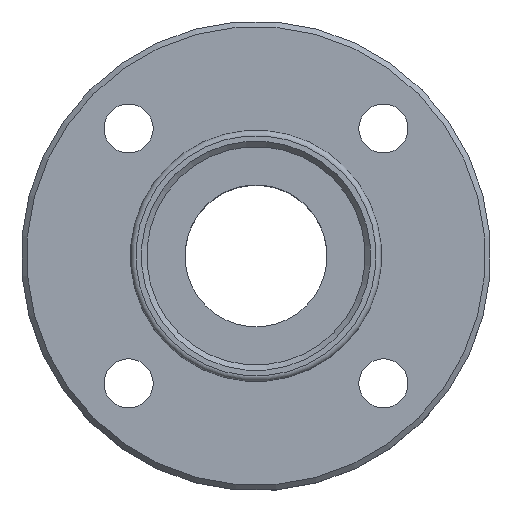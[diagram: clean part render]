
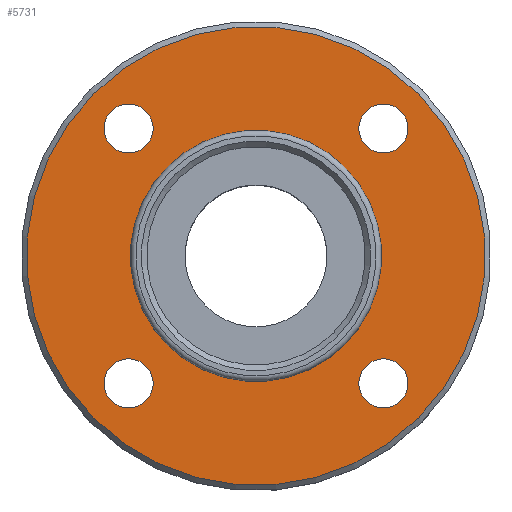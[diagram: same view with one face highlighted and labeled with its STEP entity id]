
A CAD part, top view. The second image highlights one B-rep face of the part: STEP entity #5731.
In plain terms, the highlighted planar face has unit normal (0, 0, 1).
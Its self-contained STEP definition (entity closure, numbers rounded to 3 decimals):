
#128=CIRCLE('',#6103,11.5);
#137=CIRCLE('',#6117,21.);
#138=CIRCLE('',#6118,2.25);
#139=CIRCLE('',#6119,2.25);
#140=CIRCLE('',#6120,2.25);
#141=CIRCLE('',#6121,2.25);
#545=ORIENTED_EDGE('',*,*,#2188,.T.);
#546=ORIENTED_EDGE('',*,*,#2189,.F.);
#547=ORIENTED_EDGE('',*,*,#2190,.F.);
#548=ORIENTED_EDGE('',*,*,#2191,.F.);
#549=ORIENTED_EDGE('',*,*,#2192,.F.);
#550=ORIENTED_EDGE('',*,*,#2179,.T.);
#2179=EDGE_CURVE('',#3001,#3001,#128,.F.);
#2188=EDGE_CURVE('',#3010,#3010,#137,.T.);
#2189=EDGE_CURVE('',#3011,#3011,#138,.T.);
#2190=EDGE_CURVE('',#3012,#3012,#139,.T.);
#2191=EDGE_CURVE('',#3013,#3013,#140,.T.);
#2192=EDGE_CURVE('',#3014,#3014,#141,.T.);
#3001=VERTEX_POINT('',#9116);
#3010=VERTEX_POINT('',#9139);
#3011=VERTEX_POINT('',#9141);
#3012=VERTEX_POINT('',#9143);
#3013=VERTEX_POINT('',#9145);
#3014=VERTEX_POINT('',#9147);
#4679=EDGE_LOOP('',(#545));
#4680=EDGE_LOOP('',(#546));
#4681=EDGE_LOOP('',(#547));
#4682=EDGE_LOOP('',(#548));
#4683=EDGE_LOOP('',(#549));
#4684=EDGE_LOOP('',(#550));
#5105=FACE_BOUND('',#4679,.T.);
#5106=FACE_BOUND('',#4680,.T.);
#5107=FACE_BOUND('',#4681,.T.);
#5108=FACE_BOUND('',#4682,.T.);
#5109=FACE_BOUND('',#4683,.T.);
#5110=FACE_BOUND('',#4684,.T.);
#5470=PLANE('',#6116);
#5731=ADVANCED_FACE('',(#5105,#5106,#5107,#5108,#5109,#5110),#5470,.T.);
#6103=AXIS2_PLACEMENT_3D('',#9115,#6647,#6648);
#6116=AXIS2_PLACEMENT_3D('',#9137,#6673,#6674);
#6117=AXIS2_PLACEMENT_3D('',#9138,#6675,#6676);
#6118=AXIS2_PLACEMENT_3D('',#9140,#6677,#6678);
#6119=AXIS2_PLACEMENT_3D('',#9142,#6679,#6680);
#6120=AXIS2_PLACEMENT_3D('',#9144,#6681,#6682);
#6121=AXIS2_PLACEMENT_3D('',#9146,#6683,#6684);
#6647=DIRECTION('',(0.,0.,1.));
#6648=DIRECTION('',(0.707,-0.707,0.));
#6673=DIRECTION('',(0.,0.,1.));
#6674=DIRECTION('',(0.707,-0.707,0.));
#6675=DIRECTION('',(0.,0.,1.));
#6676=DIRECTION('',(0.707,-0.707,0.));
#6677=DIRECTION('',(0.,0.,1.));
#6678=DIRECTION('',(0.707,-0.707,0.));
#6679=DIRECTION('',(0.,0.,1.));
#6680=DIRECTION('',(0.707,-0.707,0.));
#6681=DIRECTION('',(0.,0.,1.));
#6682=DIRECTION('',(0.707,-0.707,0.));
#6683=DIRECTION('',(0.,0.,1.));
#6684=DIRECTION('',(0.707,-0.707,0.));
#9115=CARTESIAN_POINT('',(0.,0.,0.));
#9116=CARTESIAN_POINT('',(8.132,-8.132,0.));
#9137=CARTESIAN_POINT('',(0.,0.,0.));
#9138=CARTESIAN_POINT('',(0.,0.,0.));
#9139=CARTESIAN_POINT('',(14.849,-14.849,0.));
#9140=CARTESIAN_POINT('',(11.667,11.667,0.));
#9141=CARTESIAN_POINT('',(13.258,10.076,0.));
#9142=CARTESIAN_POINT('',(-11.667,11.667,0.));
#9143=CARTESIAN_POINT('',(-10.076,10.076,0.));
#9144=CARTESIAN_POINT('',(-11.667,-11.667,0.));
#9145=CARTESIAN_POINT('',(-10.076,-13.258,0.));
#9146=CARTESIAN_POINT('',(11.667,-11.667,0.));
#9147=CARTESIAN_POINT('',(13.258,-13.258,0.));
